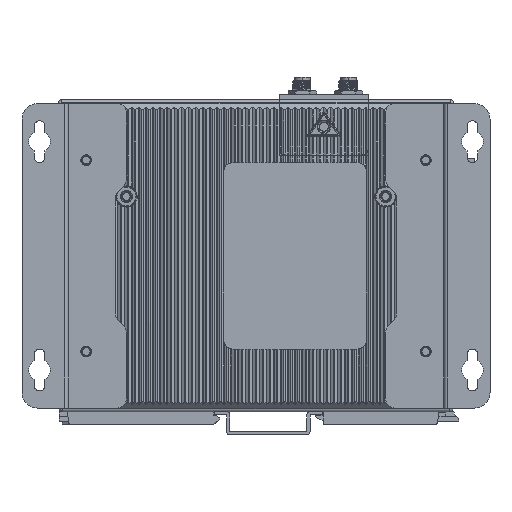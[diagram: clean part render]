
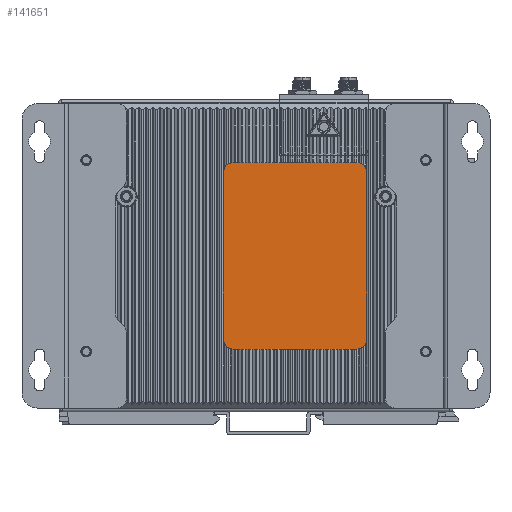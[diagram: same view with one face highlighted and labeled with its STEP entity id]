
A CAD part, front view. The second image highlights one B-rep face of the part: STEP entity #141651.
In plain terms, the highlighted planar face has unit normal (0, -1, 0).
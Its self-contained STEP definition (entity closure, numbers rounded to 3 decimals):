
#32162=DIRECTION('',(-1.,0.,0.));
#32163=VECTOR('',#32162,40.);
#32164=CARTESIAN_POINT('',(32.65,-12.7,30.2));
#32165=LINE('',#32164,#32163);
#35598=CARTESIAN_POINT('',(-7.35,-12.7,27.));
#35599=DIRECTION('',(0.,1.,0.));
#35600=DIRECTION('',(-1.,0.,0.));
#35601=AXIS2_PLACEMENT_3D('',#35598,#35599,#35600);
#35603=CARTESIAN_POINT('',(32.65,-12.7,27.));
#35604=DIRECTION('',(0.,1.,0.));
#35605=DIRECTION('',(0.,0.,1.));
#35606=AXIS2_PLACEMENT_3D('',#35603,#35604,#35605);
#35608=DIRECTION('',(0.,0.,-1.));
#35609=VECTOR('',#35608,54.);
#35610=CARTESIAN_POINT('',(35.85,-12.7,27.));
#35611=LINE('',#35610,#35609);
#35612=CARTESIAN_POINT('',(32.65,-12.7,-27.));
#35613=DIRECTION('',(0.,1.,0.));
#35614=DIRECTION('',(1.,0.,0.));
#35615=AXIS2_PLACEMENT_3D('',#35612,#35613,#35614);
#35617=DIRECTION('',(-1.,0.,0.));
#35618=VECTOR('',#35617,40.);
#35619=CARTESIAN_POINT('',(32.65,-12.7,-30.2));
#35620=LINE('',#35619,#35618);
#35621=CARTESIAN_POINT('',(-7.35,-12.7,-27.));
#35622=DIRECTION('',(0.,1.,0.));
#35623=DIRECTION('',(0.,0.,-1.));
#35624=AXIS2_PLACEMENT_3D('',#35621,#35622,#35623);
#35626=DIRECTION('',(0.,0.,1.));
#35627=VECTOR('',#35626,54.);
#35628=CARTESIAN_POINT('',(-10.55,-12.7,-27.));
#35629=LINE('',#35628,#35627);
#55581=CARTESIAN_POINT('',(35.85,-12.7,-27.));
#55582=VERTEX_POINT('',#55581);
#55583=CARTESIAN_POINT('',(32.65,-12.7,-30.2));
#55584=VERTEX_POINT('',#55583);
#55585=CARTESIAN_POINT('',(35.85,-12.7,27.));
#55586=VERTEX_POINT('',#55585);
#55587=CARTESIAN_POINT('',(32.65,-12.7,30.2));
#55589=VERTEX_POINT('',#55587);
#55660=CARTESIAN_POINT('',(-7.35,-12.7,30.2));
#55661=VERTEX_POINT('',#55660);
#55777=CARTESIAN_POINT('',(-10.55,-12.7,27.));
#55778=VERTEX_POINT('',#55777);
#55779=CARTESIAN_POINT('',(-7.35,-12.7,-30.2));
#55780=VERTEX_POINT('',#55779);
#55781=CARTESIAN_POINT('',(-10.55,-12.7,-27.));
#55782=VERTEX_POINT('',#55781);
#141632=CARTESIAN_POINT('',(0.,-12.7,0.));
#141633=DIRECTION('',(0.,1.,0.));
#141634=DIRECTION('',(0.,0.,-1.));
#141635=AXIS2_PLACEMENT_3D('',#141632,#141633,#141634);
#141636=PLANE('',#141635);
#141638=ORIENTED_EDGE('',*,*,#141637,.T.);
#141639=ORIENTED_EDGE('',*,*,#131214,.F.);
#141640=ORIENTED_EDGE('',*,*,#131105,.T.);
#141641=ORIENTED_EDGE('',*,*,#141620,.T.);
#141642=ORIENTED_EDGE('',*,*,#141600,.T.);
#141644=ORIENTED_EDGE('',*,*,#141643,.T.);
#141646=ORIENTED_EDGE('',*,*,#141645,.T.);
#141648=ORIENTED_EDGE('',*,*,#141647,.T.);
#141649=EDGE_LOOP('',(#141638,#141639,#141640,#141641,#141642,#141644,#141646,
#141648));
#141650=FACE_OUTER_BOUND('',#141649,.F.);
#141651=ADVANCED_FACE('',(#141650),#141636,.F.);
#35602=CIRCLE('',#35601,3.2);
#35607=CIRCLE('',#35606,3.2);
#35616=CIRCLE('',#35615,3.2);
#35625=CIRCLE('',#35624,3.2);
#131105=EDGE_CURVE('',#55589,#55586,#35607,.T.);
#131214=EDGE_CURVE('',#55589,#55661,#32165,.T.);
#141600=EDGE_CURVE('',#55582,#55584,#35616,.T.);
#141620=EDGE_CURVE('',#55586,#55582,#35611,.T.);
#141637=EDGE_CURVE('',#55778,#55661,#35602,.T.);
#141643=EDGE_CURVE('',#55584,#55780,#35620,.T.);
#141645=EDGE_CURVE('',#55780,#55782,#35625,.T.);
#141647=EDGE_CURVE('',#55782,#55778,#35629,.T.);
